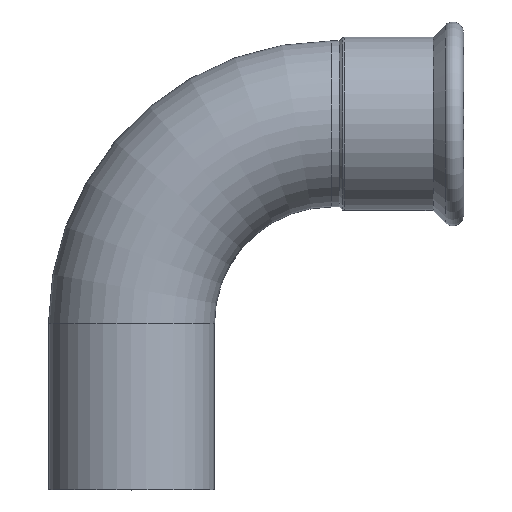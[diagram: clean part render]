
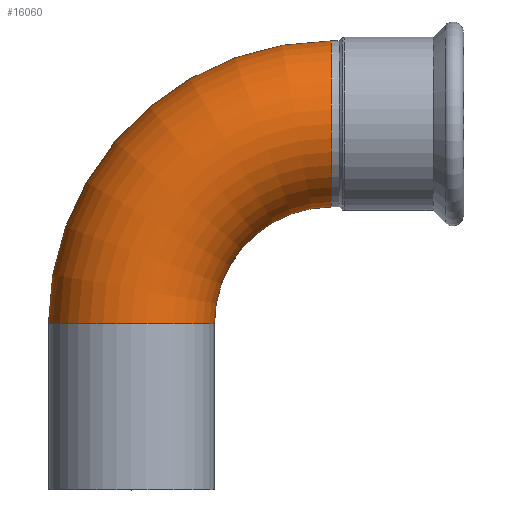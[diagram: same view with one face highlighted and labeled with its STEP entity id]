
A CAD part, top view. The second image highlights one B-rep face of the part: STEP entity #16060.
In plain terms, the highlighted toroidal (fillet/blend) face has major radius 130 mm and minor radius 54 mm.
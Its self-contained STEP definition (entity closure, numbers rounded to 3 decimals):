
#13590=CARTESIAN_POINT('',(-1.,-54.,0.));
#13600=VERTEX_POINT('',#13590);
#13740=CARTESIAN_POINT('',(-1.,54.,0.));
#13750=VERTEX_POINT('',#13740);
#13830=CARTESIAN_POINT('',(-1.,-130.,0.));
#13840=DIRECTION('',(0.,0.,1.));
#13850=DIRECTION('',(0.,1.,0.));
#13860=AXIS2_PLACEMENT_3D('',#13830,#13840,#13850);
#13870=TOROIDAL_SURFACE('',#13860,130.,54.);
#13880=CARTESIAN_POINT('',(-131.,-130.,0.));
#13890=DIRECTION('',(0.,-1.,0.));
#13900=DIRECTION('',(-1.,0.,0.));
#13910=AXIS2_PLACEMENT_3D('',#13880,#13890,#13900);
#13920=CIRCLE('',#13910,54.);
#13950=CARTESIAN_POINT('',(-77.,-130.,0.));
#13960=VERTEX_POINT('',#13950);
#13990=CARTESIAN_POINT('',(-1.,-130.,0.));
#14000=DIRECTION('',(0.,0.,1.));
#14010=DIRECTION('',(0.,1.,0.));
#14020=AXIS2_PLACEMENT_3D('',#13990,#14000,#14010);
#14030=CIRCLE('',#14020,76.);
#14040=EDGE_CURVE('',#13600,#13960,#14030,.T.);
#14080=CARTESIAN_POINT('',(-1.,-130.,0.));
#14090=DIRECTION('',(0.,0.,1.));
#14100=DIRECTION('',(0.,1.,0.));
#14110=AXIS2_PLACEMENT_3D('',#14080,#14090,#14100);
#14120=CIRCLE('',#14110,184.);
#14130=CARTESIAN_POINT('',(-185.,-130.,0.));
#14140=VERTEX_POINT('',#14130);
#14150=EDGE_CURVE('',#13750,#14140,#14120,.T.);
#15720=EDGE_CURVE('',#13960,#14140,#13920,.T.);
#15940=ORIENTED_EDGE('',*,*,#15720,.F.);
#15950=ORIENTED_EDGE('',*,*,#14150,.T.);
#15960=CARTESIAN_POINT('',(-1.,0.,0.));
#15970=DIRECTION('',(-1.,0.,0.));
#15980=DIRECTION('',(0.,1.,0.));
#15990=AXIS2_PLACEMENT_3D('',#15960,#15970,#15980);
#16000=CIRCLE('',#15990,54.);
#16010=EDGE_CURVE('',#13600,#13750,#16000,.T.);
#16020=ORIENTED_EDGE('',*,*,#16010,.T.);
#16030=ORIENTED_EDGE('',*,*,#14040,.F.);
#16040=EDGE_LOOP('',(#16030,#16020,#15950,#15940));
#16050=FACE_OUTER_BOUND('',#16040,.T.);
#16060=ADVANCED_FACE('',(#16050),#13870,.T.);
